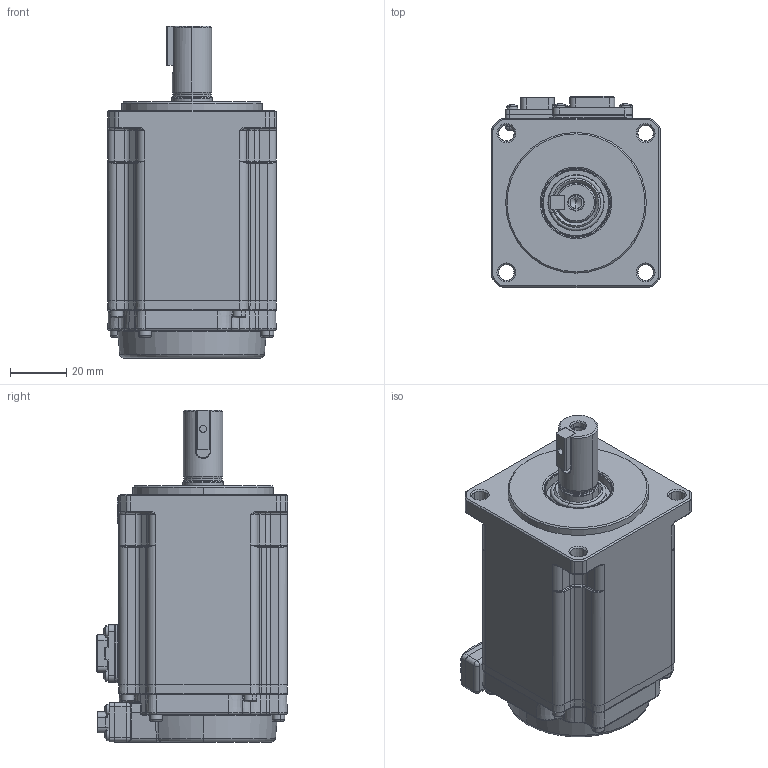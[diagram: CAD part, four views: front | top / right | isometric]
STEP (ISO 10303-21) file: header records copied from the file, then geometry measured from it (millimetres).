
FILE_DESCRIPTION (( 'STEP AP214' ), '1' );
FILE_NAME ('60-400W-衄蚐猾拸秶雄ん(RSK1-H060A04B30S).STEP', '2024-09-06T10:55:09', ( '' ), ( '' ), 'SwSTEP 2.0', 'SolidWorks 2020', '' );
FILE_SCHEMA (( 'AUTOMOTIVE_DESIGN' ));
Length unit declared in the file: millimetre
Products named in the file (11): 3130000001_す瑩_B5x5x14(GBT1096-2003 湍れ瑩蹟謂M3); 3231000001_勾板螺丝型6pin连接器插座_GAMC3064_无制动器线; 3220000001_蚐猾_TC15x25x4(NBR); 2174000001_綴傷裔禱矗_RSK1-H060A04B30S36; 2181000001_綴裔_RSK1-H060A04B30S36; 3114000001_十字槽盘头自挤螺钉_M2x5(GBT6560-2014 锌镍合金 黑色); 苤萇儂晤鎢傷赽; 60楊擘粣; 60-400W-衄蚐猾拸秶雄ん(RSK1-H060A04B30S); 3111000001_内六角圆柱头螺钉_M2.5x10(GBT70.1-2000 锌镍合金 黑色 耐落 12.9级）; 2142000001_儂褲禱矗_RSK1-H060A04B30S36
Assembly tree (24 placements, depth 2):
  60-400W-衄蚐猾拸秶雄ん(RSK1-H060A04B30S)
    2142000001_儂褲禱矗_RSK1-H060A04B30S36
    2174000001_綴傷裔禱矗_RSK1-H060A04B30S36
    2181000001_綴裔_RSK1-H060A04B30S36
    3231000001_勾板螺丝型6pin连接器插座_GAMC3064_无制动器线
    苤萇儂晤鎢傷赽
    3111000001_内六角圆柱头螺钉_M2.5x10(GBT70.1-2000 锌镍合金 黑色 耐落 12.9级）  x8
    3114000001_十字槽盘头自挤螺钉_M2x5(GBT6560-2014 锌镍合金 黑色)  x8
    60楊擘粣
    3220000001_蚐猾_TC15x25x4(NBR)
    3130000001_す瑩_B5x5x14(GBT1096-2003 湍れ瑩蹟謂M3)
Bounding box: 60 x 67.9 x 118 mm (x, y, z)
Volume: 224764.1 mm3; surface area: 57209.4 mm2
Topology: 27 solids, 27 shells, 2967 faces, 7560 edges, 4740 vertices
Faces by surface type: plane 1427, cylinder 650, cone 313, bspline 289, torus 250, sphere 38
Entity records: 95933 total; most frequent: CARTESIAN_POINT 26344, ORIENTED_EDGE 13184, DIRECTION 12045, EDGE_CURVE 6592, VERTEX_POINT 4159, AXIS2_PLACEMENT_3D 4081, LINE 3883, VECTOR 3883
